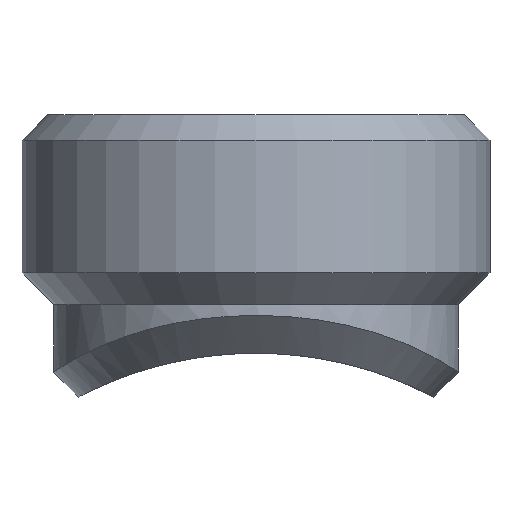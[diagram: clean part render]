
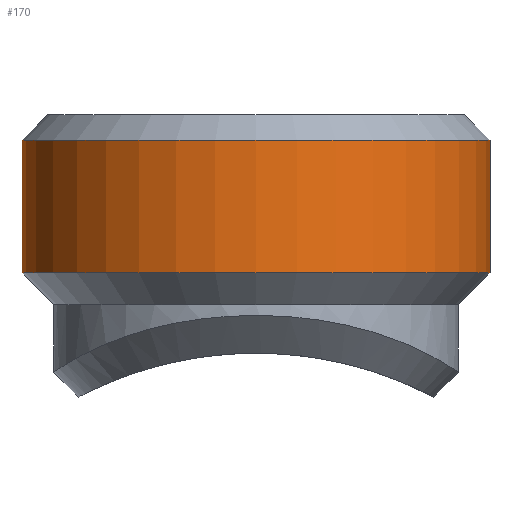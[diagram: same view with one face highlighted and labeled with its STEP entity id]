
A CAD part, front view. The second image highlights one B-rep face of the part: STEP entity #170.
In plain terms, the highlighted cylindrical face has radius 18.5 mm (diameter 37 mm), a full revolution.
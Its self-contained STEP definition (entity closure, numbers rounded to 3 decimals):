
#18=CYLINDRICAL_SURFACE('',#188,18.5);
#27=ORIENTED_EDGE('',*,*,#44,.T.);
#28=ORIENTED_EDGE('',*,*,#45,.F.);
#44=EDGE_CURVE('',#53,#53,#61,.T.);
#45=EDGE_CURVE('',#54,#54,#62,.T.);
#53=VERTEX_POINT('',#367);
#54=VERTEX_POINT('',#369);
#61=CIRCLE('',#189,18.5);
#62=CIRCLE('',#190,18.5);
#69=EDGE_LOOP('',(#27));
#70=EDGE_LOOP('',(#28));
#87=FACE_BOUND('',#69,.T.);
#88=FACE_BOUND('',#70,.T.);
#170=ADVANCED_FACE('',(#87,#88),#18,.T.);
#188=AXIS2_PLACEMENT_3D('',#365,#211,#212);
#189=AXIS2_PLACEMENT_3D('',#366,#213,#214);
#190=AXIS2_PLACEMENT_3D('',#368,#215,#216);
#211=DIRECTION('',(0.,0.,-1.));
#212=DIRECTION('',(-1.,0.,0.));
#213=DIRECTION('',(0.,0.,-1.));
#214=DIRECTION('',(-1.,0.,0.));
#215=DIRECTION('',(0.,0.,-1.));
#216=DIRECTION('',(-1.,0.,0.));
#365=CARTESIAN_POINT('',(0.,0.,0.));
#366=CARTESIAN_POINT('',(0.,0.,22.));
#367=CARTESIAN_POINT('',(-18.5,0.,22.));
#368=CARTESIAN_POINT('',(0.,0.,11.5));
#369=CARTESIAN_POINT('',(-18.5,0.,11.5));
